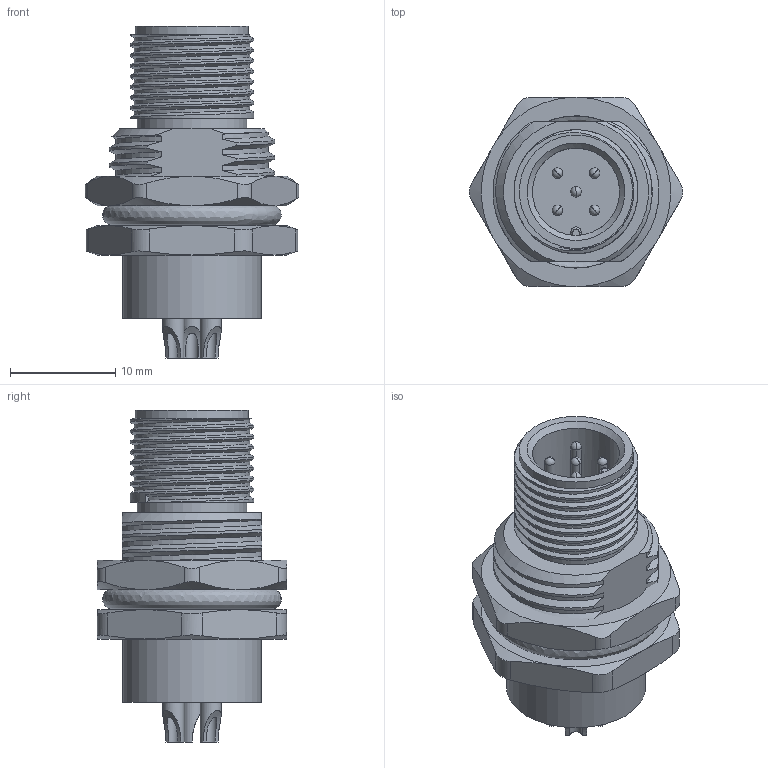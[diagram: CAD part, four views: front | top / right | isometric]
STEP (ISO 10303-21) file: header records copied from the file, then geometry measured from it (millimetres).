
FILE_DESCRIPTION(/* description */ (''),/* implementation_level */ '2;1');
FILE_NAME(/* name */ 'FL-M12-5MB.stp',/* time_stamp */ '2024-02-28T10:24:15+08:00',/* author */ (''),/* organization */ (''),/* preprocessor_version */ 'ST-DEVELOPER v16.7',/* originating_system */ 'SIEMENS PLM Software NX 12.0',/* authorisation */ '');
FILE_SCHEMA (('AP203_CONFIGURATION_CONTROLLED_3D_DESIGN_OF_MECHANICAL_PARTS_AND_ASSEMBLIES_MIM_LF { 1 0 10303 403 2 1 2}'));
Length unit declared in the file: millimetre
Products named in the file (1): Admi4C686D94jnoc
Bounding box: 20.32 x 18 x 31.6 mm (x, y, z)
Volume: 3979 mm3; surface area: 4414.5 mm2
Topology: 2 solids, 19 shells, 308 faces, 763 edges, 494 vertices
Faces by surface type: cylinder 122, plane 88, cone 48, bspline 35, sphere 10, torus 5
Full cylindrical faces by diameter (mm): 1.2 x5, 2 x10, 2.1 x15, 8.3 x1, 9.4 x2, 9.8 x1, 10 x1, 10.4 x1, 10.8 x1, 13.2 x1
Entity records: 18028 total; most frequent: CARTESIAN_POINT 11310, ORIENTED_EDGE 1360, DIRECTION 1261, EDGE_CURVE 680, AXIS2_PLACEMENT_3D 530, VERTEX_POINT 461, EDGE_LOOP 395, ADVANCED_FACE 308
